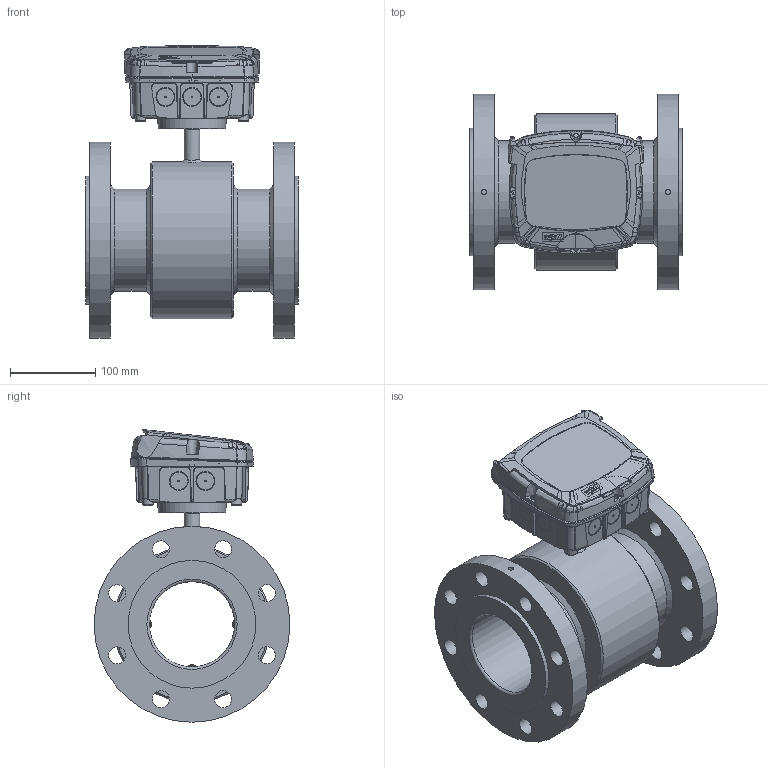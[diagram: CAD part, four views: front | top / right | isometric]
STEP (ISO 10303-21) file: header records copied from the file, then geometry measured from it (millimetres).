
FILE_DESCRIPTION((''),'2;1');
FILE_NAME('C:\Users\Claus\Dropbox\Projects 2011 - 2012\MJK Automation AS\DN 100 - ANSI B16,5.stp','2014-10-24T15:17:59',('Claus'),(''),'Autodesk Inventor 2013','Autodesk Inventor 2013','');
FILE_SCHEMA(('AUTOMOTIVE_DESIGN { 1 0 10303 214 1 1 1 1 }'));
Length unit declared in the file: millimetre
Products named in the file (7): DN 100 - ANSI B16,5; FC_MagFlux_assembly_r1; CH Bund ml; FC Top rev 06.04; CH 03.02; Electrode group DN15 - DN32
Assembly tree (8 placements, depth 3):
  DN 100 - ANSI B16,5
    DN 100 - ANSI B16,5
    FC_MagFlux_assembly_r1
      CH Bund ml
      FC Top rev 06.04
      CH 03.02
    Electrode group DN15 - DN32  x3
Bounding box: 250 x 230 x 343.34 mm (x, y, z)
Volume: 4130970.9 mm3; surface area: 629198.9 mm2
Topology: 10 solids, 10 shells, 2935 faces, 7994 edges, 5203 vertices
Faces by surface type: bspline 1752, plane 810, cylinder 210, cone 123, torus 25, revolution 9, sphere 6
Full cylindrical faces by diameter (mm): 2.5 x3, 3 x6, 4 x1, 6 x2, 6.5 x4, 7.042 x4, 8 x3, 8.048 x4, 12.072 x4, 15 x1, 18 x1, 18.108 x1, 20 x16, 64 x1, 100 x1, 120 x2, 150 x2, 184 x1, 230 x2
Entity records: 234060 total; most frequent: CARTESIAN_POINT 171564, ORIENTED_EDGE 15496, DIRECTION 7757, EDGE_CURVE 7748, VERTEX_POINT 5141, EDGE_LOOP 3273, VECTOR 3112, LINE 3112
